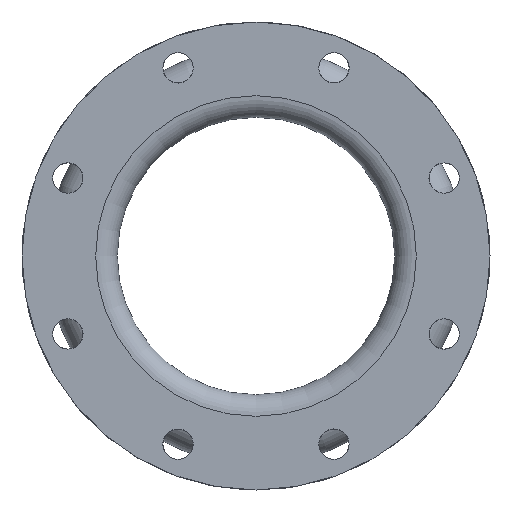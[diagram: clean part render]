
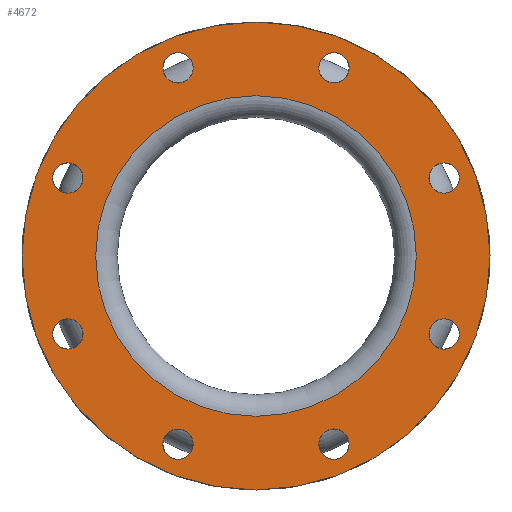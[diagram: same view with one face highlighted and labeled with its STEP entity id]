
A CAD part, left-side view. The second image highlights one B-rep face of the part: STEP entity #4672.
In plain terms, the highlighted planar face has unit normal (-1, 0, 0).
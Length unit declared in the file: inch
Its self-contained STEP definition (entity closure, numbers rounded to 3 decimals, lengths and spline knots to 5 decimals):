
#482=PLANE('',#4984);
#585=FACE_BOUND('',#1021,.T.);
#586=FACE_BOUND('',#1022,.T.);
#587=FACE_BOUND('',#1023,.T.);
#588=FACE_BOUND('',#1024,.T.);
#589=FACE_BOUND('',#1025,.T.);
#590=FACE_BOUND('',#1026,.T.);
#591=FACE_BOUND('',#1027,.T.);
#592=FACE_BOUND('',#1028,.T.);
#593=FACE_BOUND('',#1029,.T.);
#731=FACE_OUTER_BOUND('',#1020,.T.);
#1020=EDGE_LOOP('',(#2946));
#1021=EDGE_LOOP('',(#2947));
#1022=EDGE_LOOP('',(#2948));
#1023=EDGE_LOOP('',(#2949));
#1024=EDGE_LOOP('',(#2950));
#1025=EDGE_LOOP('',(#2951));
#1026=EDGE_LOOP('',(#2952));
#1027=EDGE_LOOP('',(#2953));
#1028=EDGE_LOOP('',(#2954));
#1029=EDGE_LOOP('',(#2955));
#1403=CIRCLE('',#4947,0.4375);
#1405=CIRCLE('',#4950,0.4375);
#1407=CIRCLE('',#4953,0.4375);
#1409=CIRCLE('',#4956,0.4375);
#1411=CIRCLE('',#4959,0.4375);
#1413=CIRCLE('',#4962,0.4375);
#1415=CIRCLE('',#4965,0.4375);
#1417=CIRCLE('',#4968,0.4375);
#1425=CIRCLE('',#4983,4.625);
#1426=CIRCLE('',#4985,6.75);
#1809=VERTEX_POINT('',#7207);
#1811=VERTEX_POINT('',#7212);
#1813=VERTEX_POINT('',#7217);
#1815=VERTEX_POINT('',#7222);
#1817=VERTEX_POINT('',#7227);
#1819=VERTEX_POINT('',#7232);
#1821=VERTEX_POINT('',#7237);
#1823=VERTEX_POINT('',#7242);
#1831=VERTEX_POINT('',#7265);
#1832=VERTEX_POINT('',#7268);
#2271=EDGE_CURVE('',#1809,#1809,#1403,.T.);
#2273=EDGE_CURVE('',#1811,#1811,#1405,.T.);
#2275=EDGE_CURVE('',#1813,#1813,#1407,.T.);
#2277=EDGE_CURVE('',#1815,#1815,#1409,.T.);
#2279=EDGE_CURVE('',#1817,#1817,#1411,.T.);
#2281=EDGE_CURVE('',#1819,#1819,#1413,.T.);
#2283=EDGE_CURVE('',#1821,#1821,#1415,.T.);
#2285=EDGE_CURVE('',#1823,#1823,#1417,.T.);
#2293=EDGE_CURVE('',#1831,#1831,#1425,.T.);
#2294=EDGE_CURVE('',#1832,#1832,#1426,.T.);
#2946=ORIENTED_EDGE('',*,*,#2294,.F.);
#2947=ORIENTED_EDGE('',*,*,#2293,.T.);
#2948=ORIENTED_EDGE('',*,*,#2271,.T.);
#2949=ORIENTED_EDGE('',*,*,#2273,.T.);
#2950=ORIENTED_EDGE('',*,*,#2275,.T.);
#2951=ORIENTED_EDGE('',*,*,#2277,.T.);
#2952=ORIENTED_EDGE('',*,*,#2279,.T.);
#2953=ORIENTED_EDGE('',*,*,#2281,.T.);
#2954=ORIENTED_EDGE('',*,*,#2283,.T.);
#2955=ORIENTED_EDGE('',*,*,#2285,.T.);
#4672=ADVANCED_FACE('',(#731,#585,#586,#587,#588,#589,#590,#591,#592,#593),
#482,.T.);
#4947=AXIS2_PLACEMENT_3D('',#7208,#5647,#5648);
#4950=AXIS2_PLACEMENT_3D('',#7213,#5653,#5654);
#4953=AXIS2_PLACEMENT_3D('',#7218,#5659,#5660);
#4956=AXIS2_PLACEMENT_3D('',#7223,#5665,#5666);
#4959=AXIS2_PLACEMENT_3D('',#7228,#5671,#5672);
#4962=AXIS2_PLACEMENT_3D('',#7233,#5677,#5678);
#4965=AXIS2_PLACEMENT_3D('',#7238,#5683,#5684);
#4968=AXIS2_PLACEMENT_3D('',#7243,#5689,#5690);
#4983=AXIS2_PLACEMENT_3D('',#7266,#5719,#5720);
#4984=AXIS2_PLACEMENT_3D('',#7267,#5721,#5722);
#4985=AXIS2_PLACEMENT_3D('',#7269,#5723,#5724);
#5647=DIRECTION('center_axis',(1.,0.,0.));
#5648=DIRECTION('ref_axis',(0.,-0.707,-0.707));
#5653=DIRECTION('center_axis',(1.,0.,0.));
#5654=DIRECTION('ref_axis',(0.,-1.,0.));
#5659=DIRECTION('center_axis',(1.,0.,0.));
#5660=DIRECTION('ref_axis',(0.,-0.707,0.707));
#5665=DIRECTION('center_axis',(1.,0.,0.));
#5666=DIRECTION('ref_axis',(0.,0.,
1.));
#5671=DIRECTION('center_axis',(1.,0.,0.));
#5672=DIRECTION('ref_axis',(0.,0.707,0.707));
#5677=DIRECTION('center_axis',(1.,0.,0.));
#5678=DIRECTION('ref_axis',(0.,1.,0.));
#5683=DIRECTION('center_axis',(1.,0.,0.));
#5684=DIRECTION('ref_axis',(0.,0.707,-0.707));
#5689=DIRECTION('center_axis',(1.,0.,0.));
#5690=DIRECTION('ref_axis',(0.,0.,-1.));
#5719=DIRECTION('center_axis',(1.,0.,0.));
#5720=DIRECTION('ref_axis',(0.,0.,-1.));
#5721=DIRECTION('center_axis',(-1.,0.,0.));
#5722=DIRECTION('ref_axis',(0.,0.,1.));
#5723=DIRECTION('center_axis',(1.,0.,0.));
#5724=DIRECTION('ref_axis',(0.,0.,-1.));
#7207=CARTESIAN_POINT('',(-3.,2.55762,-5.11843));
#7208=CARTESIAN_POINT('Origin',(-3.,2.24827,-5.42779));
#7212=CARTESIAN_POINT('',(-3.,-1.81077,-5.42779));
#7213=CARTESIAN_POINT('Origin',(-3.,-2.24827,-5.42779));
#7217=CARTESIAN_POINT('',(-3.,-5.11843,-2.55762));
#7218=CARTESIAN_POINT('Origin',(-3.,-5.42779,-2.24827));
#7222=CARTESIAN_POINT('',(-3.,-5.42779,1.81077));
#7223=CARTESIAN_POINT('Origin',(-3.,-5.42779,2.24827));
#7227=CARTESIAN_POINT('',(-3.,-2.55762,5.11843));
#7228=CARTESIAN_POINT('Origin',(-3.,-2.24827,5.42779));
#7232=CARTESIAN_POINT('',(-3.,1.81077,5.42779));
#7233=CARTESIAN_POINT('Origin',(-3.,2.24827,5.42779));
#7237=CARTESIAN_POINT('',(-3.,5.11843,2.55762));
#7238=CARTESIAN_POINT('Origin',(-3.,5.42779,2.24827));
#7242=CARTESIAN_POINT('',(-3.,5.42779,-1.81077));
#7243=CARTESIAN_POINT('Origin',(-3.,5.42779,-2.24827));
#7265=CARTESIAN_POINT('',(-3.,4.625,0.));
#7266=CARTESIAN_POINT('Origin',(-3.,0.,0.));
#7267=CARTESIAN_POINT('Origin',(-3.,6.75,0.));
#7268=CARTESIAN_POINT('',(-3.,6.75,0.));
#7269=CARTESIAN_POINT('Origin',(-3.,0.,0.));
